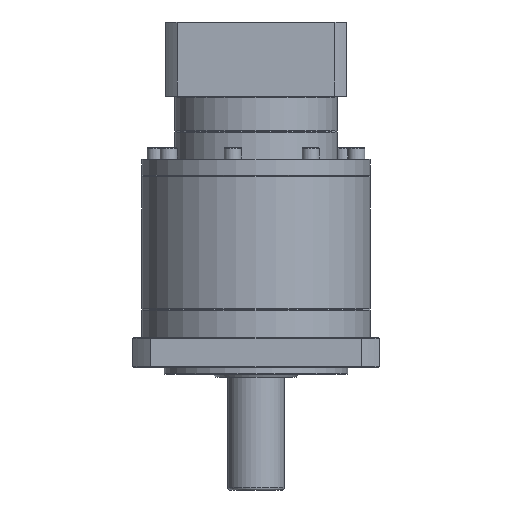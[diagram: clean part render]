
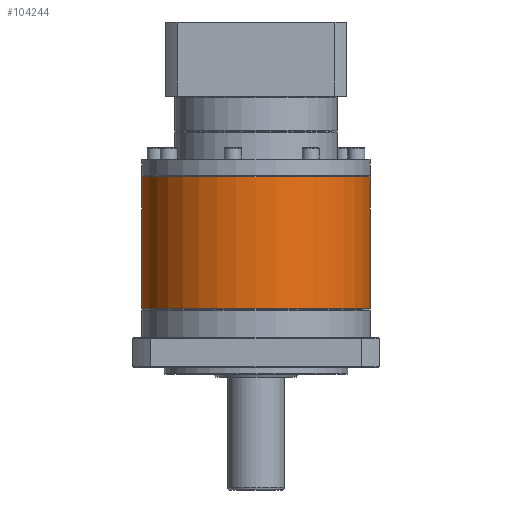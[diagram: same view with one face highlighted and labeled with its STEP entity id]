
A CAD part, front view. The second image highlights one B-rep face of the part: STEP entity #104244.
In plain terms, the highlighted cylindrical face has radius 81 mm (diameter 162 mm), a partial arc.
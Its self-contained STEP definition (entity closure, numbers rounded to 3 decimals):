
#5299 = ORIENTED_EDGE ( 'NONE', *, *, #68930, .T. ) ;
#9782 = AXIS2_PLACEMENT_3D ( 'NONE', #92211, #93268, #52029 ) ;
#10978 = AXIS2_PLACEMENT_3D ( 'NONE', #55098, #105966, #81621 ) ;
#14843 = VECTOR ( 'NONE', #96930, 1000. ) ;
#18640 = VERTEX_POINT ( 'NONE', #85673 ) ;
#22029 = ORIENTED_EDGE ( 'NONE', *, *, #23649, .T. ) ;
#23649 = EDGE_CURVE ( 'NONE', #32287, #76869, #25135, .T. ) ;
#25135 = CIRCLE ( 'NONE', #94949, 81. ) ;
#27474 = VERTEX_POINT ( 'NONE', #82752 ) ;
#31516 = CARTESIAN_POINT ( 'NONE',  ( 53.106, 136.864, -156.88 ) ) ;
#31649 = CIRCLE ( 'NONE', #9782, 81. ) ;
#32287 = VERTEX_POINT ( 'NONE', #63931 ) ;
#32343 = CARTESIAN_POINT ( 'NONE',  ( 134.106, 136.864, -62.88 ) ) ;
#39380 = CYLINDRICAL_SURFACE ( 'NONE', #10978, 81. ) ;
#52029 = DIRECTION ( 'NONE',  ( -1., 0., 0. ) ) ;
#54156 = CARTESIAN_POINT ( 'NONE',  ( 134.106, 136.864, -156.88 ) ) ;
#55098 = CARTESIAN_POINT ( 'NONE',  ( 53.106, 136.864, -62.88 ) ) ;
#59762 = LINE ( 'NONE', #32343, #14843 ) ;
#61726 = EDGE_LOOP ( 'NONE', ( #75955, #5299, #101905, #22029 ) ) ;
#63931 = CARTESIAN_POINT ( 'NONE',  ( -27.894, 136.864, -156.88 ) ) ;
#68930 = EDGE_CURVE ( 'NONE', #18640, #27474, #31649, .T. ) ;
#75955 = ORIENTED_EDGE ( 'NONE', *, *, #87606, .F. ) ;
#76869 = VERTEX_POINT ( 'NONE', #54156 ) ;
#77730 = CARTESIAN_POINT ( 'NONE',  ( -27.894, 136.864, -62.88 ) ) ;
#81621 = DIRECTION ( 'NONE',  ( -1., 0., 0. ) ) ;
#82752 = CARTESIAN_POINT ( 'NONE',  ( -27.894, 136.864, -63.38 ) ) ;
#83078 = EDGE_CURVE ( 'NONE', #27474, #32287, #84497, .T. ) ;
#84497 = LINE ( 'NONE', #77730, #101082 ) ;
#85673 = CARTESIAN_POINT ( 'NONE',  ( 134.106, 136.864, -63.38 ) ) ;
#87606 = EDGE_CURVE ( 'NONE', #18640, #76869, #59762, .T. ) ;
#87876 = DIRECTION ( 'NONE',  ( -1., 0., 0. ) ) ;
#90828 = FACE_OUTER_BOUND ( 'NONE', #61726, .T. ) ;
#92211 = CARTESIAN_POINT ( 'NONE',  ( 53.106, 136.864, -63.38 ) ) ;
#93268 = DIRECTION ( 'NONE',  ( 0., 0., -1. ) ) ;
#94232 = DIRECTION ( 'NONE',  ( 0., 0., -1. ) ) ;
#94949 = AXIS2_PLACEMENT_3D ( 'NONE', #31516, #97140, #87876 ) ;
#96930 = DIRECTION ( 'NONE',  ( 0., 0., -1. ) ) ;
#97140 = DIRECTION ( 'NONE',  ( 0., 0., 1. ) ) ;
#101082 = VECTOR ( 'NONE', #94232, 1000. ) ;
#101905 = ORIENTED_EDGE ( 'NONE', *, *, #83078, .T. ) ;
#104244 = ADVANCED_FACE ( 'NONE', ( #90828 ), #39380, .T. ) ;
#105966 = DIRECTION ( 'NONE',  ( 0., 0., -1. ) ) ;
